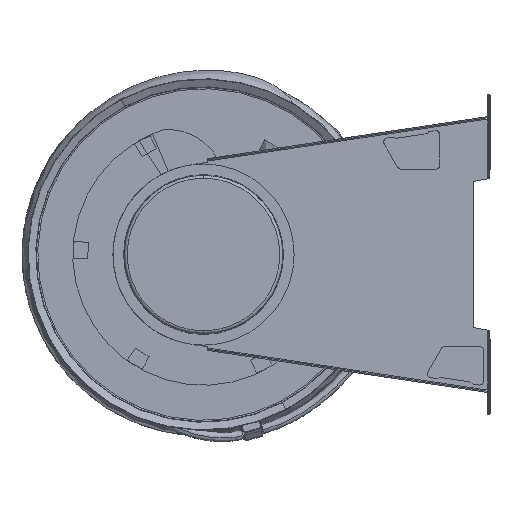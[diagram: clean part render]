
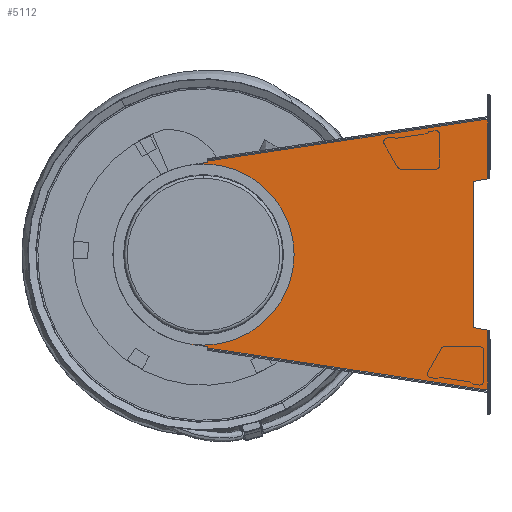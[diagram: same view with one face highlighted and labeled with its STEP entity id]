
A CAD part, left-side view. The second image highlights one B-rep face of the part: STEP entity #5112.
In plain terms, the highlighted planar face has unit normal (-1, 0, 0).
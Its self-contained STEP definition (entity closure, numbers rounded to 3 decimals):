
#3676=DIRECTION('',(0.,0.,1.));
#3677=VECTOR('',#3676,250.);
#3678=CARTESIAN_POINT('',(-724.,-461.142,-125.));
#3679=LINE('',#3678,#3677);
#3692=CARTESIAN_POINT('',(-724.,0.,0.));
#3693=DIRECTION('',(-1.,0.,0.));
#3694=DIRECTION('',(0.,1.,0.));
#3695=AXIS2_PLACEMENT_3D('',#3692,#3693,#3694);
#3697=CARTESIAN_POINT('',(-724.,0.,0.));
#3698=DIRECTION('',(-1.,0.,0.));
#3699=DIRECTION('',(0.,-1.,0.));
#3700=AXIS2_PLACEMENT_3D('',#3697,#3698,#3699);
#3702=DIRECTION('',(0.,-0.989,0.149));
#3703=VECTOR('',#3702,3.105);
#3704=CARTESIAN_POINT('',(-724.,23.07,153.273));
#3705=LINE('',#3704,#3703);
#3706=DIRECTION('',(0.,-0.989,0.149));
#3707=VECTOR('',#3706,6.895);
#3708=CARTESIAN_POINT('',(-724.,20.,153.736));
#3709=LINE('',#3708,#3707);
#3710=DIRECTION('',(0.,-0.989,0.149));
#3711=VECTOR('',#3710,20.342);
#3712=CARTESIAN_POINT('',(-724.,13.182,154.762));
#3713=LINE('',#3712,#3711);
#3714=CARTESIAN_POINT('',(-724.,-21.767,160.022));
#3715=DIRECTION('',(1.,0.,0.));
#3716=DIRECTION('',(0.,0.989,-0.149));
#3717=AXIS2_PLACEMENT_3D('',#3714,#3715,#3716);
#3719=DIRECTION('',(0.,-0.989,0.149));
#3720=VECTOR('',#3719,3.853);
#3721=CARTESIAN_POINT('',(-724.,-482.19,231.347));
#3722=LINE('',#3721,#3720);
#3723=DIRECTION('',(0.,0.985,-0.174));
#3724=VECTOR('',#3723,25.242);
#3725=CARTESIAN_POINT('',(-724.,-486.,129.383));
#3726=LINE('',#3725,#3724);
#3727=DIRECTION('',(0.,0.985,0.174));
#3728=VECTOR('',#3727,25.242);
#3729=CARTESIAN_POINT('',(-724.,-486.,-129.383));
#3730=LINE('',#3729,#3728);
#3731=DIRECTION('',(0.,0.989,0.149));
#3732=VECTOR('',#3731,3.853);
#3733=CARTESIAN_POINT('',(-724.,-486.,-231.92));
#3734=LINE('',#3733,#3732);
#3735=CARTESIAN_POINT('',(-724.,-21.767,-160.022));
#3736=DIRECTION('',(1.,0.,0.));
#3737=DIRECTION('',(0.,1.,0.016));
#3738=AXIS2_PLACEMENT_3D('',#3735,#3736,#3737);
#3740=DIRECTION('',(0.,-0.989,-0.149));
#3741=VECTOR('',#3740,20.342);
#3742=CARTESIAN_POINT('',(-724.,13.182,-154.762));
#3743=LINE('',#3742,#3741);
#3744=DIRECTION('',(0.,-0.989,-0.149));
#3745=VECTOR('',#3744,6.895);
#3746=CARTESIAN_POINT('',(-724.,20.,-153.736));
#3747=LINE('',#3746,#3745);
#3748=DIRECTION('',(0.,-0.989,-0.149));
#3749=VECTOR('',#3748,3.105);
#3750=CARTESIAN_POINT('',(-724.,23.07,-153.273));
#3751=LINE('',#3750,#3749);
#3757=CARTESIAN_POINT('',(-724.,0.,0.));
#3758=DIRECTION('',(-1.,0.,0.));
#3759=DIRECTION('',(0.,0.149,0.989));
#3760=AXIS2_PLACEMENT_3D('',#3757,#3758,#3759);
#3794=CARTESIAN_POINT('',(-724.,-6.769,159.787));
#3812=DIRECTION('',(0.,-0.989,0.149));
#3813=VECTOR('',#3812,480.777);
#3814=CARTESIAN_POINT('',(-724.,-6.769,159.787));
#3815=LINE('',#3814,#3813);
#3970=DIRECTION('',(0.,0.,-1.));
#3971=VECTOR('',#3970,102.537);
#3972=CARTESIAN_POINT('',(-724.,-486.,231.92));
#3973=LINE('',#3972,#3971);
#4384=DIRECTION('',(0.,0.,1.));
#4385=VECTOR('',#4384,102.537);
#4386=CARTESIAN_POINT('',(-724.,-486.,-231.92));
#4387=LINE('',#4386,#4385);
#4551=CARTESIAN_POINT('',(-724.,-6.769,-159.787));
#4565=DIRECTION('',(0.,-0.989,-0.149));
#4566=VECTOR('',#4565,480.777);
#4567=CARTESIAN_POINT('',(-724.,-6.769,-159.787));
#4568=LINE('',#4567,#4566);
#4714=CARTESIAN_POINT('',(-724.,-33.,0.));
#4715=CARTESIAN_POINT('',(-724.,33.,0.));
#4716=VERTEX_POINT('',#4714);
#4717=VERTEX_POINT('',#4715);
#4719=CARTESIAN_POINT('',(-724.,23.07,-153.273));
#4721=VERTEX_POINT('',#4719);
#4738=CARTESIAN_POINT('',(-724.,-486.,-231.92));
#4739=CARTESIAN_POINT('',(-724.,-482.19,-231.347));
#4740=VERTEX_POINT('',#4738);
#4741=VERTEX_POINT('',#4739);
#4792=CARTESIAN_POINT('',(-724.,-486.,-129.383));
#4793=VERTEX_POINT('',#4792);
#4795=CARTESIAN_POINT('',(-724.,23.07,153.273));
#4797=VERTEX_POINT('',#4795);
#4814=CARTESIAN_POINT('',(-724.,-486.,231.92));
#4815=CARTESIAN_POINT('',(-724.,-482.19,231.347));
#4816=VERTEX_POINT('',#4814);
#4817=VERTEX_POINT('',#4815);
#4855=CARTESIAN_POINT('',(-724.,-486.,129.383));
#4856=VERTEX_POINT('',#4855);
#4861=CARTESIAN_POINT('',(-724.,-461.142,-125.));
#4862=VERTEX_POINT('',#4861);
#4867=CARTESIAN_POINT('',(-724.,-461.142,125.));
#4868=VERTEX_POINT('',#4867);
#4877=CARTESIAN_POINT('',(-724.,20.,-153.736));
#4878=CARTESIAN_POINT('',(-724.,13.182,-154.762));
#4879=VERTEX_POINT('',#4877);
#4880=VERTEX_POINT('',#4878);
#4886=VERTEX_POINT('',#4551);
#4895=CARTESIAN_POINT('',(-724.,20.,153.736));
#4896=CARTESIAN_POINT('',(-724.,13.182,154.762));
#4897=VERTEX_POINT('',#4895);
#4898=VERTEX_POINT('',#4896);
#4904=VERTEX_POINT('',#3794);
#4923=CARTESIAN_POINT('',(-724.,-6.934,-157.79));
#4924=VERTEX_POINT('',#4923);
#4927=CARTESIAN_POINT('',(-724.,-6.934,157.79));
#4928=VERTEX_POINT('',#4927);
#5064=CARTESIAN_POINT('',(-724.,0.,0.));
#5065=DIRECTION('',(-1.,0.,0.));
#5066=DIRECTION('',(0.,0.,1.));
#5067=AXIS2_PLACEMENT_3D('',#5064,#5065,#5066);
#5068=PLANE('',#5067);
#5070=ORIENTED_EDGE('',*,*,#5069,.F.);
#5072=ORIENTED_EDGE('',*,*,#5071,.T.);
#5074=ORIENTED_EDGE('',*,*,#5073,.T.);
#5076=ORIENTED_EDGE('',*,*,#5075,.T.);
#5078=ORIENTED_EDGE('',*,*,#5077,.T.);
#5080=ORIENTED_EDGE('',*,*,#5079,.T.);
#5082=ORIENTED_EDGE('',*,*,#5081,.T.);
#5084=ORIENTED_EDGE('',*,*,#5083,.T.);
#5086=ORIENTED_EDGE('',*,*,#5085,.T.);
#5087=ORIENTED_EDGE('',*,*,#5047,.F.);
#5089=ORIENTED_EDGE('',*,*,#5088,.F.);
#5091=ORIENTED_EDGE('',*,*,#5090,.F.);
#5093=ORIENTED_EDGE('',*,*,#5092,.T.);
#5095=ORIENTED_EDGE('',*,*,#5094,.F.);
#5097=ORIENTED_EDGE('',*,*,#5096,.T.);
#5099=ORIENTED_EDGE('',*,*,#5098,.F.);
#5101=ORIENTED_EDGE('',*,*,#5100,.F.);
#5103=ORIENTED_EDGE('',*,*,#5102,.F.);
#5104=EDGE_LOOP('',(#5070,#5072,#5074,#5076,#5078,#5080,#5082,#5084,#5086,#5087,
#5089,#5091,#5093,#5095,#5097,#5099,#5101,#5103));
#5105=FACE_OUTER_BOUND('',#5104,.F.);
#5107=ORIENTED_EDGE('',*,*,#5106,.T.);
#5109=ORIENTED_EDGE('',*,*,#5108,.T.);
#5110=EDGE_LOOP('',(#5107,#5109));
#5111=FACE_BOUND('',#5110,.F.);
#3696=CIRCLE('',#3695,33.);
#3701=CIRCLE('',#3700,33.);
#3718=CIRCLE('',#3717,15.);
#3739=CIRCLE('',#3738,15.);
#3761=CIRCLE('',#3760,155.);
#5047=EDGE_CURVE('',#4862,#4868,#3679,.T.);
#5069=EDGE_CURVE('',#4797,#4721,#3761,.T.);
#5071=EDGE_CURVE('',#4797,#4897,#3705,.T.);
#5073=EDGE_CURVE('',#4897,#4898,#3709,.T.);
#5075=EDGE_CURVE('',#4898,#4928,#3713,.T.);
#5077=EDGE_CURVE('',#4928,#4904,#3718,.T.);
#5079=EDGE_CURVE('',#4904,#4817,#3815,.T.);
#5081=EDGE_CURVE('',#4817,#4816,#3722,.T.);
#5083=EDGE_CURVE('',#4816,#4856,#3973,.T.);
#5085=EDGE_CURVE('',#4856,#4868,#3726,.T.);
#5088=EDGE_CURVE('',#4793,#4862,#3730,.T.);
#5090=EDGE_CURVE('',#4740,#4793,#4387,.T.);
#5092=EDGE_CURVE('',#4740,#4741,#3734,.T.);
#5094=EDGE_CURVE('',#4886,#4741,#4568,.T.);
#5096=EDGE_CURVE('',#4886,#4924,#3739,.T.);
#5098=EDGE_CURVE('',#4880,#4924,#3743,.T.);
#5100=EDGE_CURVE('',#4879,#4880,#3747,.T.);
#5102=EDGE_CURVE('',#4721,#4879,#3751,.T.);
#5106=EDGE_CURVE('',#4717,#4716,#3696,.T.);
#5108=EDGE_CURVE('',#4716,#4717,#3701,.T.);
#5112=ADVANCED_FACE('',(#5105,#5111),#5068,.T.);
